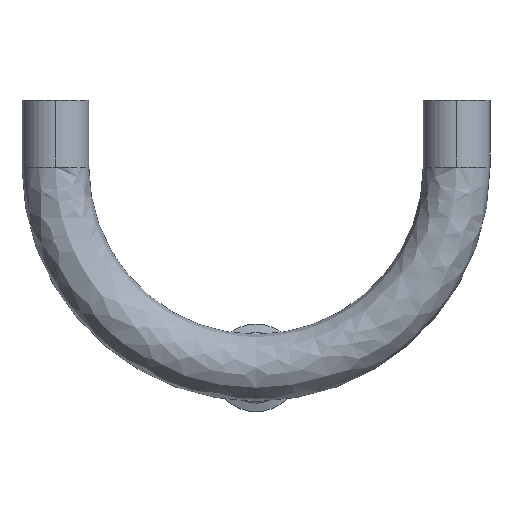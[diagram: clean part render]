
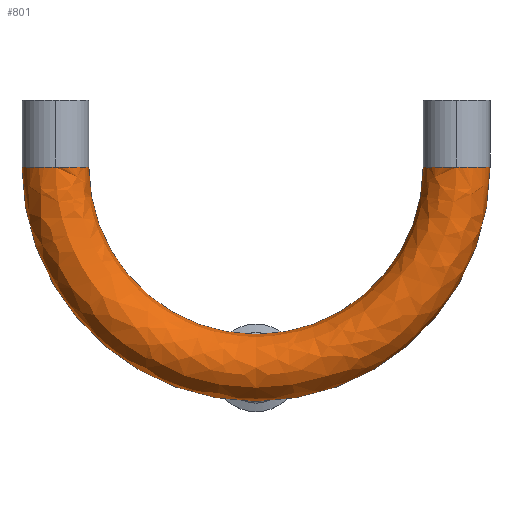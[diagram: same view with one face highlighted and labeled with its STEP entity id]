
A CAD part, top view. The second image highlights one B-rep face of the part: STEP entity #801.
In plain terms, the highlighted free-form (B-spline) face has degree [3, 3] with [4, 4] control points.
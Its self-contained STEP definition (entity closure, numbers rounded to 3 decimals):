
#3 = DIRECTION ( 'NONE',  ( 0., 0., -1. ) ) ;
#25 = CARTESIAN_POINT ( 'NONE',  ( 0., 9.525, 0. ) ) ;
#46 = CIRCLE ( 'NONE', #463, 47.625 ) ;
#73 = CARTESIAN_POINT ( 'NONE',  ( -47.625, 57.15, 0. ) ) ;
#76 = VERTEX_POINT ( 'NONE', #1701 ) ;
#94 = CARTESIAN_POINT ( 'NONE',  ( 0., -9.525, 0. ) ) ;
#145 = AXIS2_PLACEMENT_3D ( 'NONE', #1623, #1533, #1343 ) ;
#166 = DIRECTION ( 'NONE',  ( 0., -1., 0. ) ) ;
#190 = DIRECTION ( 'NONE',  ( 1., 0., 0. ) ) ;
#224 = ORIENTED_EDGE ( 'NONE', *, *, #388, .F. ) ;
#226 = CARTESIAN_POINT ( 'NONE',  ( -66.675, -76.2, 19.05 ) ) ;
#251 = ORIENTED_EDGE ( 'NONE', *, *, #279, .T. ) ;
#275 = DIRECTION ( 'NONE',  ( 0., 0., -1. ) ) ;
#279 = EDGE_CURVE ( 'NONE', #1151, #468, #46, .T. ) ;
#348 = ORIENTED_EDGE ( 'NONE', *, *, #2030, .T. ) ;
#365 = ORIENTED_EDGE ( 'NONE', *, *, #1964, .F. ) ;
#378 = CARTESIAN_POINT ( 'NONE',  ( 66.675, -76.2, 19.05 ) ) ;
#385 = ORIENTED_EDGE ( 'NONE', *, *, #633, .T. ) ;
#388 = EDGE_CURVE ( 'NONE', #76, #1208, #939, .T. ) ;
#430 = CARTESIAN_POINT ( 'NONE',  ( 47.625, 57.15, 0. ) ) ;
#444 = VERTEX_POINT ( 'NONE', #1363 ) ;
#457 = FACE_OUTER_BOUND ( 'NONE', #683, .T. ) ;
#463 = AXIS2_PLACEMENT_3D ( 'NONE', #1850, #2044, #1166 ) ;
#465 = VERTEX_POINT ( 'NONE', #827 ) ;
#468 = VERTEX_POINT ( 'NONE', #25 ) ;
#539 = CARTESIAN_POINT ( 'NONE',  ( 47.625, 57.15, 19.05 ) ) ;
#545 = CARTESIAN_POINT ( 'NONE',  ( 66.675, 57.15, 19.05 ) ) ;
#633 = EDGE_CURVE ( 'NONE', #76, #1300, #857, .T. ) ;
#636 = AXIS2_PLACEMENT_3D ( 'NONE', #927, #3, #1082 ) ;
#664 = ORIENTED_EDGE ( 'NONE', *, *, #959, .T. ) ;
#683 = EDGE_LOOP ( 'NONE', ( #766, #251, #1318, #664, #348, #365, #224, #385 ) ) ;
#698 = CARTESIAN_POINT ( 'NONE',  ( 47.625, -38.1, 19.05 ) ) ;
#706 = EDGE_CURVE ( 'NONE', #1300, #1151, #1128, .T. ) ;
#745 = VERTEX_POINT ( 'NONE', #1993 ) ;
#750 = DIRECTION ( 'NONE',  ( -1., 0., 0. ) ) ;
#766 = ORIENTED_EDGE ( 'NONE', *, *, #706, .T. ) ;
#772 = CIRCLE ( 'NONE', #835, 9.525 ) ;
#801 = ADVANCED_FACE ( 'NONE', ( #457 ), #981, .T. ) ;
#827 = CARTESIAN_POINT ( 'NONE',  ( -47.625, 57.15, 0. ) ) ;
#835 = AXIS2_PLACEMENT_3D ( 'NONE', #1093, #166, #1274 ) ;
#843 = AXIS2_PLACEMENT_3D ( 'NONE', #1305, #1131, #190 ) ;
#845 = CARTESIAN_POINT ( 'NONE',  ( -66.675, 57.15, 0. ) ) ;
#852 = CARTESIAN_POINT ( 'NONE',  ( -66.675, -76.2, 0. ) ) ;
#857 = CIRCLE ( 'NONE', #843, 9.525 ) ;
#912 = CIRCLE ( 'NONE', #1442, 47.625 ) ;
#927 = CARTESIAN_POINT ( 'NONE',  ( 0., 57.15, 0. ) ) ;
#939 = CIRCLE ( 'NONE', #1438, 66.675 ) ;
#959 = EDGE_CURVE ( 'NONE', #465, #745, #2026, .T. ) ;
#981 =( BOUNDED_SURFACE ( )  B_SPLINE_SURFACE ( 3, 3, ( 
 ( #1902, #1001, #852, #845 ),
 ( #545, #378, #226, #1169 ),
 ( #539, #698, #1802, #1502 ),
 ( #1649, #1965, #1814, #73 ) ),
 .UNSPECIFIED., .F., .F., .F. ) 
 B_SPLINE_SURFACE_WITH_KNOTS ( ( 4, 4 ),
 ( 4, 4 ),
 ( 0., 1. ),
 ( 0., 1. ),
 .UNSPECIFIED. ) 
 GEOMETRIC_REPRESENTATION_ITEM ( )  RATIONAL_B_SPLINE_SURFACE ( (
 ( 1., 0.333, 0.333, 1.),
 ( 0.333, 0.111, 0.111, 0.333),
 ( 0.333, 0.111, 0.111, 0.333),
 ( 1., 0.333, 0.333, 1.) ) ) 
 REPRESENTATION_ITEM ( '' )  SURFACE ( )  );
#1001 = CARTESIAN_POINT ( 'NONE',  ( 66.675, -76.2, 0. ) ) ;
#1033 = DIRECTION ( 'NONE',  ( 0., 0., -1. ) ) ;
#1082 = DIRECTION ( 'NONE',  ( -1., 0., 0. ) ) ;
#1093 = CARTESIAN_POINT ( 'NONE',  ( -57.15, 57.15, 0. ) ) ;
#1128 = CIRCLE ( 'NONE', #1712, 9.525 ) ;
#1131 = DIRECTION ( 'NONE',  ( 0., -1., 0. ) ) ;
#1151 = VERTEX_POINT ( 'NONE', #430 ) ;
#1166 = DIRECTION ( 'NONE',  ( -1., 0., 0. ) ) ;
#1169 = CARTESIAN_POINT ( 'NONE',  ( -66.675, 57.15, 19.05 ) ) ;
#1171 = DIRECTION ( 'NONE',  ( 1., 0., 0. ) ) ;
#1179 = CARTESIAN_POINT ( 'NONE',  ( 0., 57.15, 0. ) ) ;
#1208 = VERTEX_POINT ( 'NONE', #94 ) ;
#1221 = CARTESIAN_POINT ( 'NONE',  ( 0., 57.15, 0. ) ) ;
#1274 = DIRECTION ( 'NONE',  ( -1., 0., 0. ) ) ;
#1300 = VERTEX_POINT ( 'NONE', #1822 ) ;
#1305 = CARTESIAN_POINT ( 'NONE',  ( 57.15, 57.15, 0. ) ) ;
#1318 = ORIENTED_EDGE ( 'NONE', *, *, #1816, .T. ) ;
#1343 = DIRECTION ( 'NONE',  ( -1., 0., 0. ) ) ;
#1363 = CARTESIAN_POINT ( 'NONE',  ( -66.675, 57.15, 0. ) ) ;
#1386 = DIRECTION ( 'NONE',  ( -1., 0., 0. ) ) ;
#1438 = AXIS2_PLACEMENT_3D ( 'NONE', #1179, #1033, #750 ) ;
#1442 = AXIS2_PLACEMENT_3D ( 'NONE', #1221, #275, #1386 ) ;
#1485 = CARTESIAN_POINT ( 'NONE',  ( 57.15, 57.15, 0. ) ) ;
#1502 = CARTESIAN_POINT ( 'NONE',  ( -47.625, 57.15, 19.05 ) ) ;
#1533 = DIRECTION ( 'NONE',  ( 0., -1., 0. ) ) ;
#1620 = CIRCLE ( 'NONE', #636, 66.675 ) ;
#1623 = CARTESIAN_POINT ( 'NONE',  ( -57.15, 57.15, 0. ) ) ;
#1644 = DIRECTION ( 'NONE',  ( 0., -1., 0. ) ) ;
#1649 = CARTESIAN_POINT ( 'NONE',  ( 47.625, 57.15, 0. ) ) ;
#1701 = CARTESIAN_POINT ( 'NONE',  ( 66.675, 57.15, 0. ) ) ;
#1712 = AXIS2_PLACEMENT_3D ( 'NONE', #1485, #1644, #1171 ) ;
#1802 = CARTESIAN_POINT ( 'NONE',  ( -47.625, -38.1, 19.05 ) ) ;
#1814 = CARTESIAN_POINT ( 'NONE',  ( -47.625, -38.1, 0. ) ) ;
#1816 = EDGE_CURVE ( 'NONE', #468, #465, #912, .T. ) ;
#1822 = CARTESIAN_POINT ( 'NONE',  ( 57.15, 57.15, 9.525 ) ) ;
#1850 = CARTESIAN_POINT ( 'NONE',  ( 0., 57.15, 0. ) ) ;
#1902 = CARTESIAN_POINT ( 'NONE',  ( 66.675, 57.15, 0. ) ) ;
#1964 = EDGE_CURVE ( 'NONE', #1208, #444, #1620, .T. ) ;
#1965 = CARTESIAN_POINT ( 'NONE',  ( 47.625, -38.1, 0. ) ) ;
#1993 = CARTESIAN_POINT ( 'NONE',  ( -57.15, 57.15, 9.525 ) ) ;
#2026 = CIRCLE ( 'NONE', #145, 9.525 ) ;
#2030 = EDGE_CURVE ( 'NONE', #745, #444, #772, .T. ) ;
#2044 = DIRECTION ( 'NONE',  ( 0., 0., -1. ) ) ;
